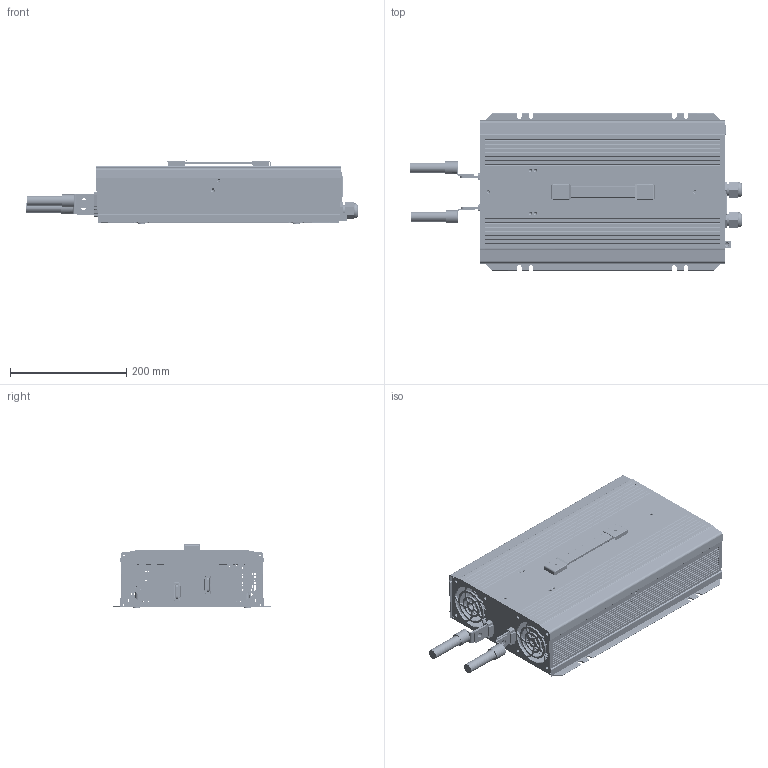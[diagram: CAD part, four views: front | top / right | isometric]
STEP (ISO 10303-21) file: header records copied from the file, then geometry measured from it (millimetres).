
FILE_DESCRIPTION(('Creo Elements/Direct Modeling STEP Export'),'2;1');
FILE_NAME('NTS-3200-UN.stp','2022-03-28T19:25:07',(''),(''),'PTC Creo Elements/Direct Modeling STEP processor for AP214 (Solid Model)','PTC Creo Elements/Direct Modeling 19.0E 27-Jun-2016 (C) Parametric Technology GmbH','');
FILE_SCHEMA(('AUTOMOTIVE_DESIGN { 1 0 10303 214 1 1 1 1 }'));
Length unit declared in the file: millimetre
Products named in the file (213): 零件9; 零件8; 零件7; 零件6; 零件5; 零件4; 零件3; 零件2; 零件12; 零件11; 零件10; 零件1; 电容; 万国插片; 万国插; open_shell.1; guwei1.1; guwei1; _S___S_O_S_JL; _S_4_X2_0192_X0__S__S_6_S___S_U; _S_4_X2_0192_X0__S_; TO220.21; TO220.9; TO220.8; TO220.7; TO220.6; TO220.5; TO220.4; TO220.3; TO220.20; TO220.2; TO220.19; TO220.18; TO220.17; TO220.16; TO220.15; TO220.14; TO220.13; TO220.12; TO220.11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
Assembly tree (121 placements, depth 2):
  零件9
  零件8
  零件7
  零件6
  零件5
    零件5
Bounding box: 570.16 x 270 x 108.65 mm (x, y, z)
Volume: 2418782.9 mm3; surface area: 2033010.9 mm2
Topology: 141 solids, 144 shells, 7078 faces, 19180 edges, 12665 vertices
Faces by surface type: plane 4326, cylinder 2364, cone 231, torus 128, bspline 16, sphere 12, extrusion 1
Entity records: 166173 total; most frequent: CARTESIAN_POINT 31773, ORIENTED_EDGE 27993, DIRECTION 25775, EDGE_CURVE 13999, VECTOR 9995, LINE 9994, VERTEX_POINT 9218, AXIS2_PLACEMENT_3D 7890
